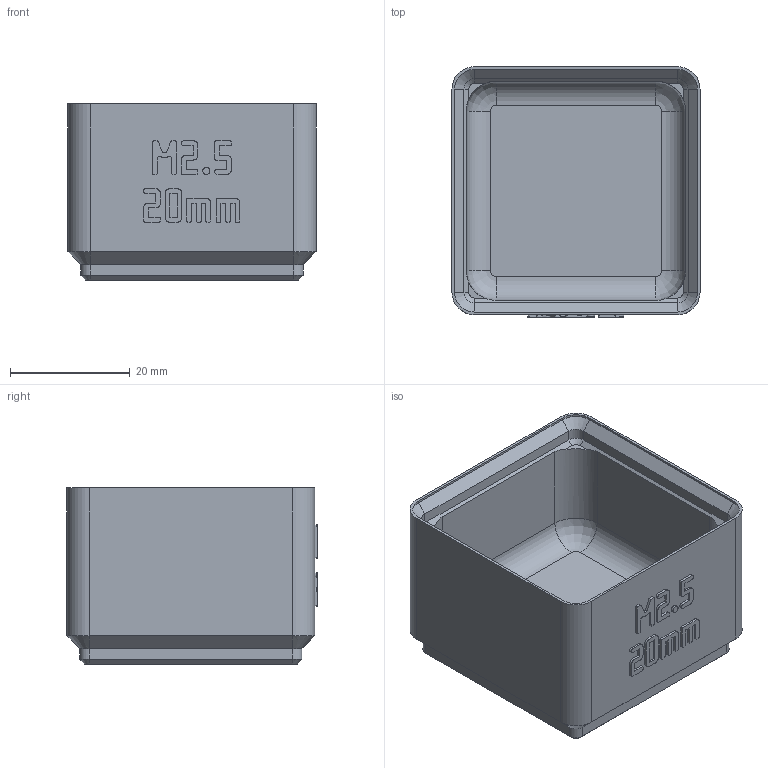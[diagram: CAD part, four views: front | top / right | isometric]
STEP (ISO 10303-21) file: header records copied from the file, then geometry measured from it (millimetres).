
FILE_DESCRIPTION(('Open CASCADE Model'),'2;1');
FILE_NAME('Open CASCADE Shape Model','2026-11-03T10:23:26',('Author'),( 'Open CASCADE'),'Open CASCADE STEP processor 8.0','build123d', 'Unknown');
FILE_SCHEMA(('AUTOMOTIVE_DESIGN { 1 0 10303 214 1 1 1 1 }'));
Products named in the file (1): COMPOUND
Bounding box: 41.5 x 41.9 x 29.5 mm (x, y, z)
Volume: 18944.6 mm3; surface area: 10659.3 mm2
Topology: 1 solids, 1 shells, 827 faces, 2389 edges, 1574 vertices
Faces by surface type: plane 783, cylinder 24, cone 16, revolution 4
Entity records: 56100 total; most frequent: CARTESIAN_POINT 11387, DIRECTION 7209, LINE 5401, VECTOR 5401, ORIENTED_EDGE 4778, PCURVE 4778, DEFINITIONAL_REPRESENTATION 4778, EDGE_CURVE 2389
